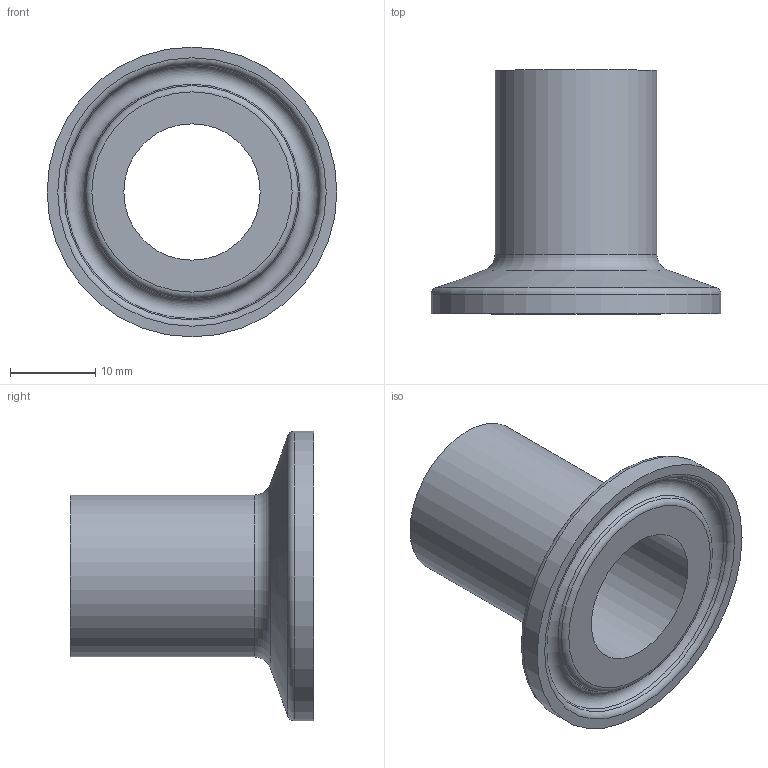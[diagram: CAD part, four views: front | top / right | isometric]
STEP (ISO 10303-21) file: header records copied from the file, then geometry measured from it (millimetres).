
FILE_DESCRIPTION(('Ferrule_19x1,5_L28,6_FL34_V12'),'2;1');
FILE_NAME('Ferrule_19x1,5_L28,6_FL34_V12.stp','2013-11-03T13:45:31',('DOCKWEILER AG'),('DOCKWEILER AG'),'Autodesk Inventor 2012','Autodesk Inventor 2012','');
FILE_SCHEMA(('CONFIG_CONTROL_DESIGN'));
Length unit declared in the file: millimetre
Products named in the file (1): N0003_003_001
Bounding box: 34 x 28.6 x 34 mm (x, y, z)
Volume: 4623 mm3; surface area: 4664 mm2
Topology: 1 solids, 1 shells, 14 faces, 25 edges, 14 vertices
Faces by surface type: torus 5, plane 3, cylinder 3, cone 3
Full cylindrical faces by diameter (mm): 16 x1, 19 x1, 34 x1
Entity records: 314 total; most frequent: DIRECTION 58, CARTESIAN_POINT 43, AXIS2_PLACEMENT_3D 29, ORIENTED_EDGE 28, EDGE_LOOP 28, VERTEX_POINT 14, CIRCLE 14, EDGE_CURVE 14
